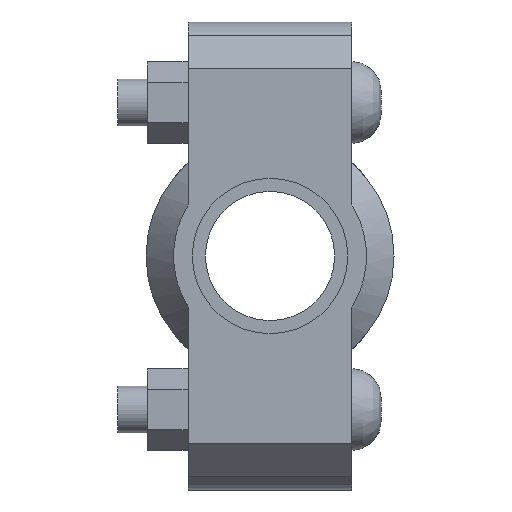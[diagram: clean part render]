
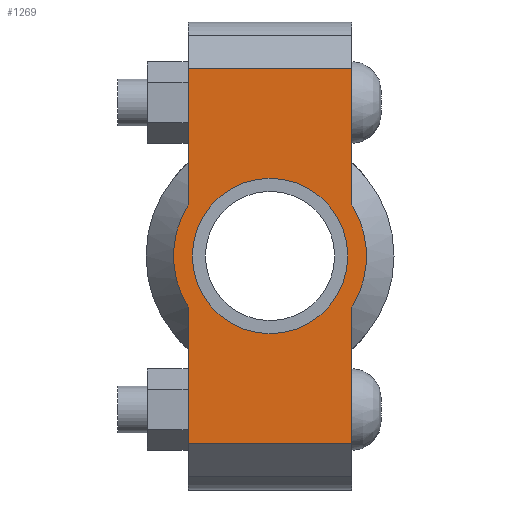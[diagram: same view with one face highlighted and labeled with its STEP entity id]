
A CAD part, left-side view. The second image highlights one B-rep face of the part: STEP entity #1269.
In plain terms, the highlighted planar face has unit normal (-1, 0, 0) as drawn and (0, 0, 1) by its records, which use the part's own axes.
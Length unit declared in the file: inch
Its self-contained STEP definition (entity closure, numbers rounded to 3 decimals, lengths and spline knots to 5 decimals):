
#97=LINE('',#2139,#186);
#112=LINE('',#2198,#201);
#120=LINE('',#2228,#209);
#122=LINE('',#2231,#211);
#123=LINE('',#2236,#212);
#124=LINE('',#2237,#213);
#186=VECTOR('',#1720,0.3937);
#201=VECTOR('',#1755,0.3937);
#209=VECTOR('',#1775,0.3937);
#211=VECTOR('',#1779,0.3937);
#212=VECTOR('',#1784,0.3937);
#213=VECTOR('',#1785,0.3937);
#261=FACE_BOUND('',#390,.T.);
#309=FACE_OUTER_BOUND('',#389,.T.);
#389=EDGE_LOOP('',(#995,#996,#997,#998,#999,#1000,#1001,#1002));
#390=EDGE_LOOP('',(#1003));
#471=CIRCLE('',#1477,1.031);
#472=CIRCLE('',#1478,1.031);
#473=CIRCLE('',#1479,0.83);
#556=VERTEX_POINT('',#2136);
#557=VERTEX_POINT('',#2138);
#578=VERTEX_POINT('',#2193);
#579=VERTEX_POINT('',#2197);
#588=VERTEX_POINT('',#2223);
#589=VERTEX_POINT('',#2227);
#590=VERTEX_POINT('',#2233);
#591=VERTEX_POINT('',#2235);
#592=VERTEX_POINT('',#2239);
#696=EDGE_CURVE('',#557,#556,#97,.T.);
#721=EDGE_CURVE('',#579,#578,#112,.T.);
#734=EDGE_CURVE('',#589,#588,#120,.T.);
#736=EDGE_CURVE('',#589,#556,#122,.T.);
#737=EDGE_CURVE('',#588,#590,#471,.T.);
#738=EDGE_CURVE('',#590,#591,#123,.T.);
#739=EDGE_CURVE('',#579,#591,#124,.T.);
#740=EDGE_CURVE('',#578,#557,#472,.T.);
#741=EDGE_CURVE('',#592,#592,#473,.T.);
#995=ORIENTED_EDGE('',*,*,#736,.F.);
#996=ORIENTED_EDGE('',*,*,#734,.T.);
#997=ORIENTED_EDGE('',*,*,#737,.T.);
#998=ORIENTED_EDGE('',*,*,#738,.T.);
#999=ORIENTED_EDGE('',*,*,#739,.F.);
#1000=ORIENTED_EDGE('',*,*,#721,.T.);
#1001=ORIENTED_EDGE('',*,*,#740,.T.);
#1002=ORIENTED_EDGE('',*,*,#696,.T.);
#1003=ORIENTED_EDGE('',*,*,#741,.T.);
#1146=PLANE('',#1476);
#1269=ADVANCED_FACE('',(#309,#261),#1146,.T.);
#1476=AXIS2_PLACEMENT_3D('',#2232,#1780,#1781);
#1477=AXIS2_PLACEMENT_3D('',#2234,#1782,#1783);
#1478=AXIS2_PLACEMENT_3D('',#2238,#1786,#1787);
#1479=AXIS2_PLACEMENT_3D('',#2240,#1788,#1789);
#1720=DIRECTION('',(1.,0.,0.));
#1755=DIRECTION('',(1.,0.,0.));
#1775=DIRECTION('',(-1.,0.,0.));
#1779=DIRECTION('',(0.,-1.,0.));
#1780=DIRECTION('center_axis',(0.,0.,1.));
#1781=DIRECTION('ref_axis',(-1.,0.,0.));
#1782=DIRECTION('center_axis',(0.,0.,1.));
#1783=DIRECTION('ref_axis',(1.,0.,0.));
#1784=DIRECTION('',(-1.,0.,0.));
#1785=DIRECTION('',(0.,1.,0.));
#1786=DIRECTION('center_axis',(0.,0.,1.));
#1787=DIRECTION('ref_axis',(1.,0.,0.));
#1788=DIRECTION('center_axis',(0.,0.,-1.));
#1789=DIRECTION('ref_axis',(1.,0.,0.));
#2136=CARTESIAN_POINT('',(2.,-0.875,0.94));
#2138=CARTESIAN_POINT('',(0.54529,-0.875,0.94));
#2139=CARTESIAN_POINT('',(-2.5,-0.875,0.94));
#2193=CARTESIAN_POINT('',(-0.54529,-0.875,0.94));
#2197=CARTESIAN_POINT('',(-2.,-0.875,0.94));
#2198=CARTESIAN_POINT('',(-2.5,-0.875,0.94));
#2223=CARTESIAN_POINT('',(0.54529,0.875,0.94));
#2227=CARTESIAN_POINT('',(2.,0.875,0.94));
#2228=CARTESIAN_POINT('',(2.5,0.875,0.94));
#2231=CARTESIAN_POINT('',(2.,-0.4375,0.94));
#2232=CARTESIAN_POINT('Origin',(0.,0.,
0.94));
#2233=CARTESIAN_POINT('',(-0.54529,0.875,0.94));
#2234=CARTESIAN_POINT('Origin',(0.,0.,0.94));
#2235=CARTESIAN_POINT('',(-2.,0.875,0.94));
#2236=CARTESIAN_POINT('',(2.5,0.875,0.94));
#2237=CARTESIAN_POINT('',(-2.,0.4375,0.94));
#2238=CARTESIAN_POINT('Origin',(0.,0.,0.94));
#2239=CARTESIAN_POINT('',(-0.83,0.,0.94));
#2240=CARTESIAN_POINT('Origin',(0.,0.,0.94));
